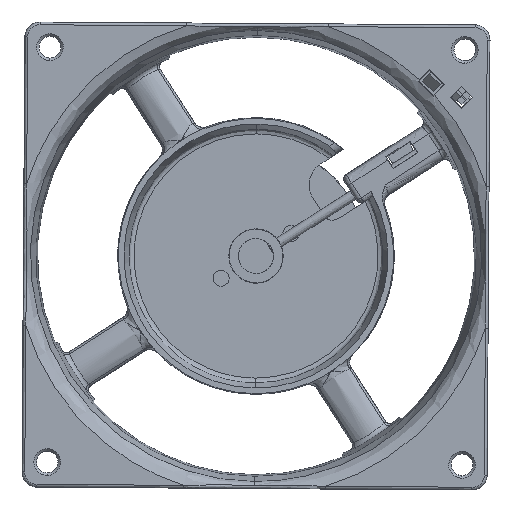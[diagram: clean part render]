
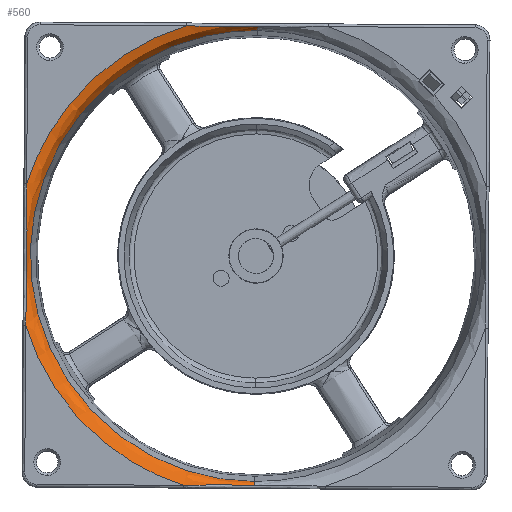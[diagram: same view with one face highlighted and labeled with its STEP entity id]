
A CAD part, front view. The second image highlights one B-rep face of the part: STEP entity #560.
In plain terms, the highlighted free-form (B-spline) face has degree [3, 3] with [4, 4] control points.
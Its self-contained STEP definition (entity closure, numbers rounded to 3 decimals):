
#560=ADVANCED_FACE($,(#1468),#12442,.T.);
#1468=FACE_OUTER_BOUND($,#2396,.T.);
#2396=EDGE_LOOP($,(#5449,#5450,#5451,#5452,#5453,#5454,#5455,#5456));
#5449=ORIENTED_EDGE($,*,*,#8410,.F.);
#5450=ORIENTED_EDGE($,*,*,#9025,.T.);
#5451=ORIENTED_EDGE($,*,*,#8400,.F.);
#5452=ORIENTED_EDGE($,*,*,#9032,.T.);
#5453=ORIENTED_EDGE($,*,*,#9031,.T.);
#5454=ORIENTED_EDGE($,*,*,#9030,.T.);
#5455=ORIENTED_EDGE($,*,*,#9029,.T.);
#5456=ORIENTED_EDGE($,*,*,#9028,.T.);
#8400=EDGE_CURVE($,#10624,#10607,#12767,.T.);
#8410=EDGE_CURVE($,#10606,#10633,#12771,.T.);
#9025=EDGE_CURVE($,#10606,#10607,#13023,.T.);
#9028=EDGE_CURVE($,#10975,#10633,#14148,.T.);
#9029=EDGE_CURVE($,#10976,#10975,#13026,.T.);
#9030=EDGE_CURVE($,#10977,#10976,#14149,.T.);
#9031=EDGE_CURVE($,#10978,#10977,#13027,.T.);
#9032=EDGE_CURVE($,#10624,#10978,#14150,.T.);
#10606=VERTEX_POINT($,#42549);
#10607=VERTEX_POINT($,#42550);
#10624=VERTEX_POINT($,#42567);
#10633=VERTEX_POINT($,#42576);
#10975=VERTEX_POINT($,#42918);
#10976=VERTEX_POINT($,#42919);
#10977=VERTEX_POINT($,#42920);
#10978=VERTEX_POINT($,#42921);
#12442=(
BOUNDED_SURFACE()
B_SPLINE_SURFACE(3,3,((#40655,#40656,#40657,#40658),(#40659,#40660,#40661,
#40662),(#40663,#40664,#40665,#40666),(#40667,#40668,#40669,#40670)),.UNSPECIFIED.,
.F.,.F.,.F.)
B_SPLINE_SURFACE_WITH_KNOTS((4,4),(4,4),(0.,1.),(0.,1.),.UNSPECIFIED.)
GEOMETRIC_REPRESENTATION_ITEM()
RATIONAL_B_SPLINE_SURFACE(((1.,0.333,0.333,1.),(0.851,
0.284,0.284,0.851),(0.851,
0.284,0.284,0.851),(1.,0.333,
0.333,1.)))
REPRESENTATION_ITEM($)
SURFACE()
);
#12767=(
BOUNDED_CURVE()
B_SPLINE_CURVE(2,(#19560,#19561,#19562),.UNSPECIFIED.,.F.,.F.)
B_SPLINE_CURVE_WITH_KNOTS((3,3),(12.832,13.375),.UNSPECIFIED.)
CURVE()
GEOMETRIC_REPRESENTATION_ITEM()
RATIONAL_B_SPLINE_CURVE((1.,0.963,1.))
REPRESENTATION_ITEM($)
);
#12771=(
BOUNDED_CURVE()
B_SPLINE_CURVE(2,(#19629,#19630,#19631),.UNSPECIFIED.,.F.,.F.)
B_SPLINE_CURVE_WITH_KNOTS((3,3),(6.283,6.827),.UNSPECIFIED.)
CURVE()
GEOMETRIC_REPRESENTATION_ITEM()
RATIONAL_B_SPLINE_CURVE((1.,0.963,1.))
REPRESENTATION_ITEM($)
);
#13023=(
BOUNDED_CURVE()
B_SPLINE_CURVE(2,(#22939,#22940,#22941,#22942,#22943),.UNSPECIFIED.,.F.,
.F.)
B_SPLINE_CURVE_WITH_KNOTS((3,2,3),(0.,1.571,3.142),
.UNSPECIFIED.)
CURVE()
GEOMETRIC_REPRESENTATION_ITEM()
RATIONAL_B_SPLINE_CURVE((1.,0.707,1.,0.707,1.))
REPRESENTATION_ITEM($)
);
#13026=(
BOUNDED_CURVE()
B_SPLINE_CURVE(3,(#22969,#22970,#22971,#22972),.UNSPECIFIED.,.F.,.F.)
B_SPLINE_CURVE_WITH_KNOTS((4,4),(7.229,8.229),.UNSPECIFIED.)
CURVE()
GEOMETRIC_REPRESENTATION_ITEM()
RATIONAL_B_SPLINE_CURVE((1.,0.922,0.922,1.))
REPRESENTATION_ITEM($)
);
#13027=(
BOUNDED_CURVE()
B_SPLINE_CURVE(3,(#22993,#22994,#22995,#22996),.UNSPECIFIED.,.F.,.F.)
B_SPLINE_CURVE_WITH_KNOTS((4,4),(5.229,6.229),.UNSPECIFIED.)
CURVE()
GEOMETRIC_REPRESENTATION_ITEM()
RATIONAL_B_SPLINE_CURVE((1.,0.922,0.922,1.))
REPRESENTATION_ITEM($)
);
#14148=B_SPLINE_CURVE_WITH_KNOTS($,3,(#22959,#22960,#22961,#22962,#22963,
#22964,#22965,#22966,#22967,#22968),.UNSPECIFIED.,.F.,.F.,(4,2,2,2,4),(8.229,
8.354,8.479,8.729,9.229),.UNSPECIFIED.);
#14149=B_SPLINE_CURVE_WITH_KNOTS($,3,(#22973,#22974,#22975,#22976,#22977,
#22978,#22979,#22980,#22981,#22982,#22983,#22984,#22985,#22986,#22987,#22988,
#22989,#22990,#22991,#22992),.UNSPECIFIED.,.F.,.F.,(4,2,2,2,2,2,2,2,2,4),
(6.229,6.291,6.354,6.479,6.729,
6.854,6.979,7.041,7.104,7.229),
.UNSPECIFIED.);
#14150=B_SPLINE_CURVE_WITH_KNOTS($,3,(#22997,#22998,#22999,#23000,#23001,
#23002,#23003,#23004,#23005,#23006,#23007,#23008),.UNSPECIFIED.,.F.,.F.,
(4,2,2,2,2,4),(4.229,4.479,4.729,4.854,
4.979,5.229),.UNSPECIFIED.);
#19560=CARTESIAN_POINT($,(-57.999,-16.537,45.646));
#19561=CARTESIAN_POINT($,(-58.003,-15.927,45.075));
#19562=CARTESIAN_POINT($,(-58.004,-15.109,44.901));
#19629=CARTESIAN_POINT($,(-58.595,-15.109,-44.838));
#19630=CARTESIAN_POINT($,(-58.596,-15.927,-45.012));
#19631=CARTESIAN_POINT($,(-58.599,-16.537,-45.584));
#22939=CARTESIAN_POINT($,(-58.595,-15.109,-44.838));
#22940=CARTESIAN_POINT($,(-103.464,-15.109,-44.543));
#22941=CARTESIAN_POINT($,(-103.169,-15.109,0.327));
#22942=CARTESIAN_POINT($,(-102.874,-15.109,45.196));
#22943=CARTESIAN_POINT($,(-58.004,-15.109,44.901));
#22959=CARTESIAN_POINT($,(-72.639,-17.485,-45.573));
#22960=CARTESIAN_POINT($,(-72.07,-17.485,-45.545));
#22961=CARTESIAN_POINT($,(-71.493,-17.466,-45.521));
#22962=CARTESIAN_POINT($,(-70.321,-17.4,-45.484));
#22963=CARTESIAN_POINT($,(-69.709,-17.352,-45.471));
#22964=CARTESIAN_POINT($,(-67.954,-17.193,-45.447));
#22965=CARTESIAN_POINT($,(-66.808,-17.064,-45.451));
#22966=CARTESIAN_POINT($,(-63.275,-16.702,-45.497));
#22967=CARTESIAN_POINT($,(-61.006,-16.537,-45.568));
#22968=CARTESIAN_POINT($,(-58.599,-16.537,-45.584));
#22969=CARTESIAN_POINT($,(-104.088,-17.485,-13.707));
#22970=CARTESIAN_POINT($,(-99.438,-17.485,-29.204));
#22971=CARTESIAN_POINT($,(-88.073,-17.485,-40.72));
#22972=CARTESIAN_POINT($,(-72.639,-17.485,-45.573));
#22973=CARTESIAN_POINT($,(-103.903,-17.485,14.371));
#22974=CARTESIAN_POINT($,(-103.876,-17.485,13.802));
#22975=CARTESIAN_POINT($,(-103.852,-17.466,13.224));
#22976=CARTESIAN_POINT($,(-103.815,-17.4,12.053));
#22977=CARTESIAN_POINT($,(-103.801,-17.352,11.441));
#22978=CARTESIAN_POINT($,(-103.777,-17.193,9.685));
#22979=CARTESIAN_POINT($,(-103.782,-17.063,8.539));
#22980=CARTESIAN_POINT($,(-103.828,-16.702,5.007));
#22981=CARTESIAN_POINT($,(-103.899,-16.537,2.737));
#22982=CARTESIAN_POINT($,(-103.922,-16.537,-0.873));
#22983=CARTESIAN_POINT($,(-103.917,-16.574,-2.035));
#22984=CARTESIAN_POINT($,(-103.9,-16.717,-4.359));
#22985=CARTESIAN_POINT($,(-103.89,-16.824,-5.539));
#22986=CARTESIAN_POINT($,(-103.89,-17.003,-7.282));
#22987=CARTESIAN_POINT($,(-103.892,-17.065,-7.863));
#22988=CARTESIAN_POINT($,(-103.905,-17.187,-9.027));
#22989=CARTESIAN_POINT($,(-103.916,-17.244,-9.591));
#22990=CARTESIAN_POINT($,(-103.964,-17.408,-11.4));
#22991=CARTESIAN_POINT($,(-104.018,-17.485,-12.57));
#22992=CARTESIAN_POINT($,(-104.088,-17.485,-13.707));
#22993=CARTESIAN_POINT($,(-72.037,-17.485,45.82));
#22994=CARTESIAN_POINT($,(-87.534,-17.485,41.17));
#22995=CARTESIAN_POINT($,(-99.05,-17.485,29.805));
#22996=CARTESIAN_POINT($,(-103.903,-17.485,14.371));
#22997=CARTESIAN_POINT($,(-57.999,-16.537,45.646));
#22998=CARTESIAN_POINT($,(-59.203,-16.537,45.654));
#22999=CARTESIAN_POINT($,(-60.364,-16.574,45.649));
#23000=CARTESIAN_POINT($,(-62.689,-16.717,45.632));
#23001=CARTESIAN_POINT($,(-63.869,-16.824,45.622));
#23002=CARTESIAN_POINT($,(-65.613,-17.003,45.622));
#23003=CARTESIAN_POINT($,(-66.194,-17.065,45.624));
#23004=CARTESIAN_POINT($,(-67.357,-17.187,45.637));
#23005=CARTESIAN_POINT($,(-67.922,-17.244,45.648));
#23006=CARTESIAN_POINT($,(-69.73,-17.408,45.696));
#23007=CARTESIAN_POINT($,(-70.901,-17.485,45.75));
#23008=CARTESIAN_POINT($,(-72.037,-17.485,45.82));
#40655=CARTESIAN_POINT($,(-58.004,-15.109,44.901));
#40656=CARTESIAN_POINT($,(-147.744,-15.109,45.491));
#40657=CARTESIAN_POINT($,(-148.334,-15.109,-44.248));
#40658=CARTESIAN_POINT($,(-58.595,-15.109,-44.838));
#40659=CARTESIAN_POINT($,(-58.002,-16.555,45.208));
#40660=CARTESIAN_POINT($,(-148.356,-16.555,45.803));
#40661=CARTESIAN_POINT($,(-148.951,-16.555,-44.551));
#40662=CARTESIAN_POINT($,(-58.597,-16.555,-45.146));
#40663=CARTESIAN_POINT($,(-57.995,-17.485,46.357));
#40664=CARTESIAN_POINT($,(-150.646,-17.485,46.967));
#40665=CARTESIAN_POINT($,(-151.256,-17.485,-45.685));
#40666=CARTESIAN_POINT($,(-58.604,-17.485,-46.295));
#40667=CARTESIAN_POINT($,(-57.985,-17.485,47.836));
#40668=CARTESIAN_POINT($,(-153.593,-17.485,48.464));
#40669=CARTESIAN_POINT($,(-154.222,-17.485,-47.144));
#40670=CARTESIAN_POINT($,(-58.614,-17.485,-47.773));
#42549=CARTESIAN_POINT($,(-58.595,-15.109,-44.838));
#42550=CARTESIAN_POINT($,(-58.004,-15.109,44.901));
#42567=CARTESIAN_POINT($,(-57.999,-16.537,45.646));
#42576=CARTESIAN_POINT($,(-58.599,-16.537,-45.584));
#42918=CARTESIAN_POINT($,(-72.639,-17.485,-45.573));
#42919=CARTESIAN_POINT($,(-104.088,-17.485,-13.707));
#42920=CARTESIAN_POINT($,(-103.903,-17.485,14.371));
#42921=CARTESIAN_POINT($,(-72.037,-17.485,45.82));
